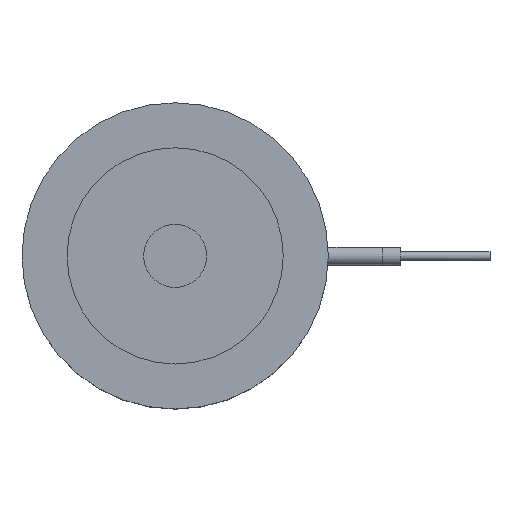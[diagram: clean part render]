
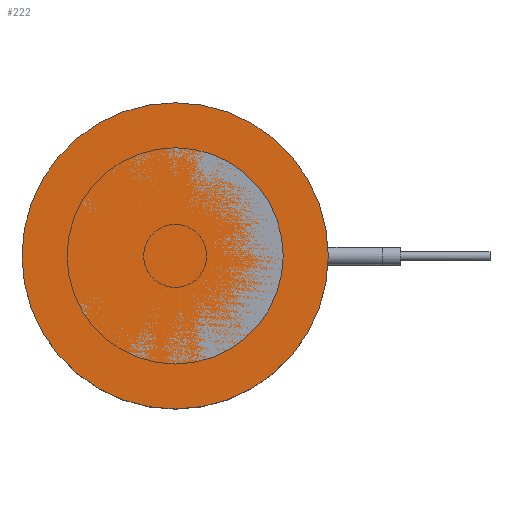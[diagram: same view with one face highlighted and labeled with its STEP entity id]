
A CAD part, top view. The second image highlights one B-rep face of the part: STEP entity #222.
In plain terms, the highlighted planar face has unit normal (0, 0, 1).
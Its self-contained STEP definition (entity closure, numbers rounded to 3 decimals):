
#222=ADVANCED_FACE('',(#322),#291,.F.);
#291=PLANE('',#1072);
#322=FACE_OUTER_BOUND('',#442,.T.);
#442=EDGE_LOOP('',(#556));
#556=ORIENTED_EDGE('',*,*,#879,.F.);
#788=VERTEX_POINT('',#1533);
#879=EDGE_CURVE('',#788,#788,#996,.T.);
#996=CIRCLE('',#1071,17.);
#1071=AXIS2_PLACEMENT_3D('',#1532,#1223,#1224);
#1072=AXIS2_PLACEMENT_3D('',#1534,#1225,#1226);
#1223=DIRECTION('',(0.,0.,-1.));
#1224=DIRECTION('',(-1.,0.,0.));
#1225=DIRECTION('',(0.,0.,-1.));
#1226=DIRECTION('',(-1.,0.,0.));
#1532=CARTESIAN_POINT('',(0.,0.,0.));
#1533=CARTESIAN_POINT('',(-17.,0.,0.));
#1534=CARTESIAN_POINT('',(0.,0.,0.));
